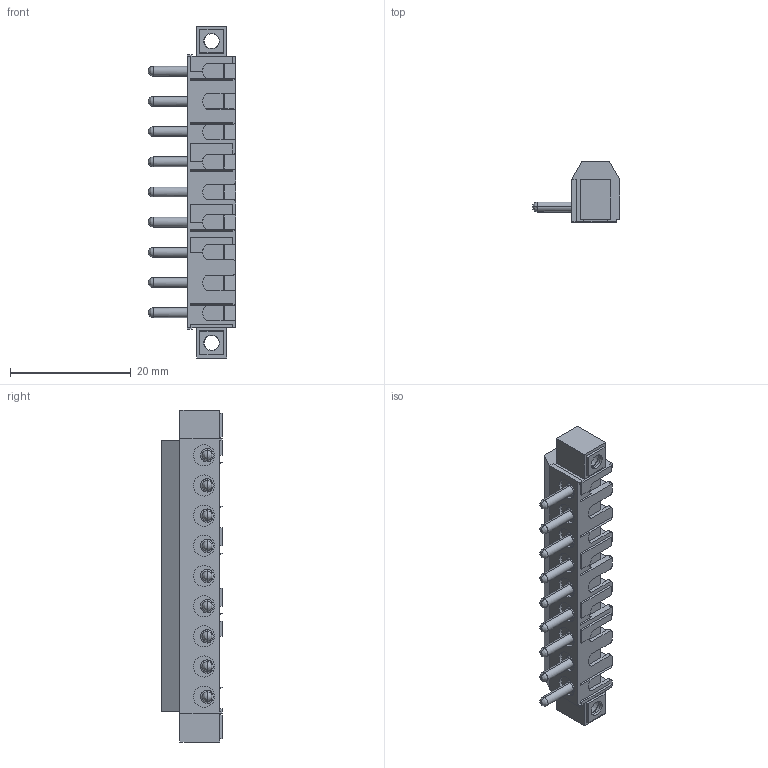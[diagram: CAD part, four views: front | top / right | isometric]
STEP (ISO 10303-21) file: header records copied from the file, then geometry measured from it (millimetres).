
FILE_DESCRIPTION (( 'STEP AP214' ), '1' );
FILE_NAME ('951-B-SV-09.STEP', '2008-04-17T03:50:05', ( ' ' ), ( '' ), 'SwSTEP 2.0', 'SolidWorks 2007', '' );
FILE_SCHEMA (( 'AUTOMOTIVE_DESIGN' ));
Length unit declared in the file: millimetre
Products named in the file (1): 951-B-SV-09
Bounding box: 14.5 x 10 x 55 mm (x, y, z)
Volume: 2971.8 mm3; surface area: 3131.7 mm2
Topology: 1 solids, 1 shells, 648 faces, 1906 edges, 1239 vertices
Faces by surface type: plane 421, cylinder 125, bspline 76, cone 26
Entity records: 24894 total; most frequent: CARTESIAN_POINT 8321, ORIENTED_EDGE 3776, DIRECTION 3085, EDGE_CURVE 1888, VERTEX_POINT 1239, VECTOR 1155, LINE 1155, AXIS2_PLACEMENT_3D 965
